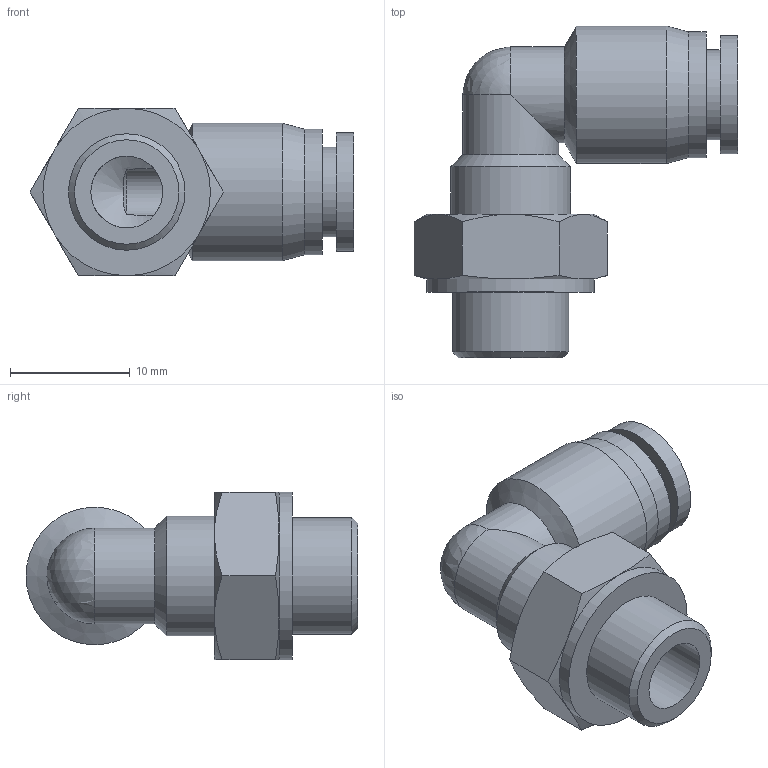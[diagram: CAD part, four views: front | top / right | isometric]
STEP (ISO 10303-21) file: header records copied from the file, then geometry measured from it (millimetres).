
FILE_DESCRIPTION(/* description */ (''),/* implementation_level */ '2;1');
FILE_NAME(/* name */ 'S:\UTecnico\ArchivioUT\Speciali Clienti\Speciali KONFIT\DISEGNI 3D\RP\RP 72\RP721804.stp',/* time_stamp */ '2014-09-20T08:56:27+02:00',/* author */ ('ut5'),/* organization */ (''),/* preprocessor_version */ 'ST-DEVELOPER v15.2',/* originating_system */ 'Autodesk Inventor 2014',/* authorisation */ '');
FILE_SCHEMA (('AUTOMOTIVE_DESIGN { 1 0 10303 214 3 1 1 }'));
Length unit declared in the file: millimetre
Products named in the file (1): RP721804
Bounding box: 27.08 x 27.75 x 14 mm (x, y, z)
Volume: 2798.6 mm3; surface area: 2391.6 mm2
Topology: 1 solids, 1 shells, 42 faces, 90 edges, 52 vertices
Faces by surface type: cone 18, plane 12, cylinder 11, sphere 1
Full cylindrical faces by diameter (mm): 4 x1, 6 x1, 7.5 x1, 8 x2, 9.728 x1, 9.9 x1, 10 x1, 10.5 x1, 11.5 x1, 14 x1
Entity records: 1049 total; most frequent: CARTESIAN_POINT 252, DIRECTION 162, ORIENTED_EDGE 138, AXIS2_PLACEMENT_3D 78, EDGE_CURVE 69, EDGE_LOOP 63, VERTEX_POINT 48, ADVANCED_FACE 42
